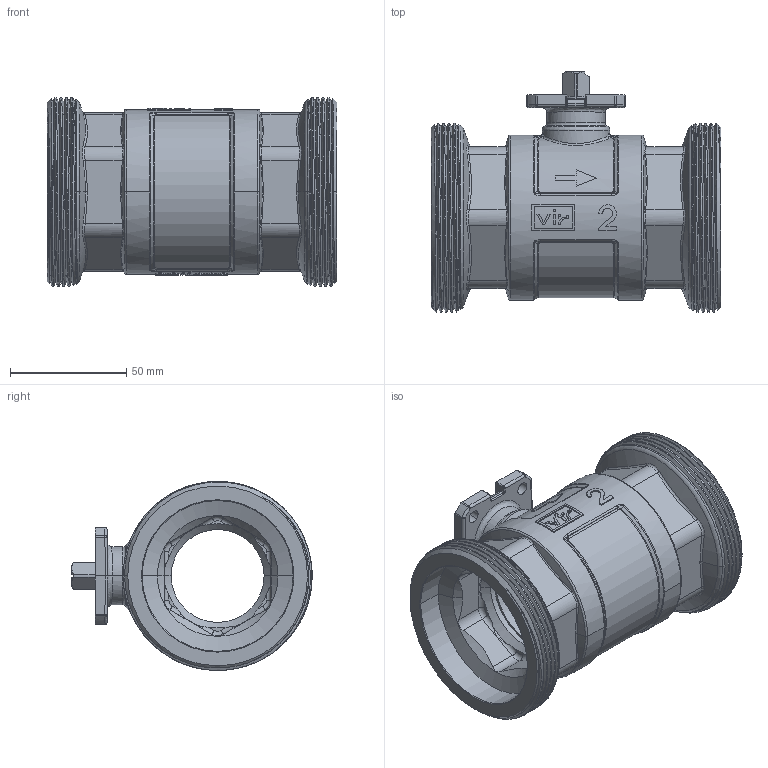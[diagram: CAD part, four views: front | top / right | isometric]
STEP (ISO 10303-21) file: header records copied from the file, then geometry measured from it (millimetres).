
FILE_DESCRIPTION((''),'2;1');
FILE_NAME('H988F0050_2346_SW0001','2015-05-11T',('64ciro'),('Vir spa'),'PRO/ENGINEER BY PARAMETRIC TECHNOLOGY CORPORATION, 2010280','PRO/ENGINEER BY PARAMETRIC TECHNOLOGY CORPORATION, 2010280','');
FILE_SCHEMA(('CONFIG_CONTROL_DESIGN'));
Length unit declared in the file: millimetre
Products named in the file (1): H988F0050_2346_SW0001
Bounding box: 124.8 x 103.5 x 81.35 mm (x, y, z)
Volume: 256512.8 mm3; surface area: 97857.9 mm2
Topology: 1 solids, 3 shells, 1110 faces, 2841 edges, 1780 vertices
Faces by surface type: plane 551, cylinder 259, bspline 140, cone 72, torus 70, sphere 18
Entity records: 47484 total; most frequent: CARTESIAN_POINT 22719, ORIENTED_EDGE 5682, DIRECTION 4427, EDGE_CURVE 2841, VERTEX_POINT 1780, AXIS2_PLACEMENT_3D 1717, EDGE_LOOP 1171, FACE_OUTER_BOUND 1110
